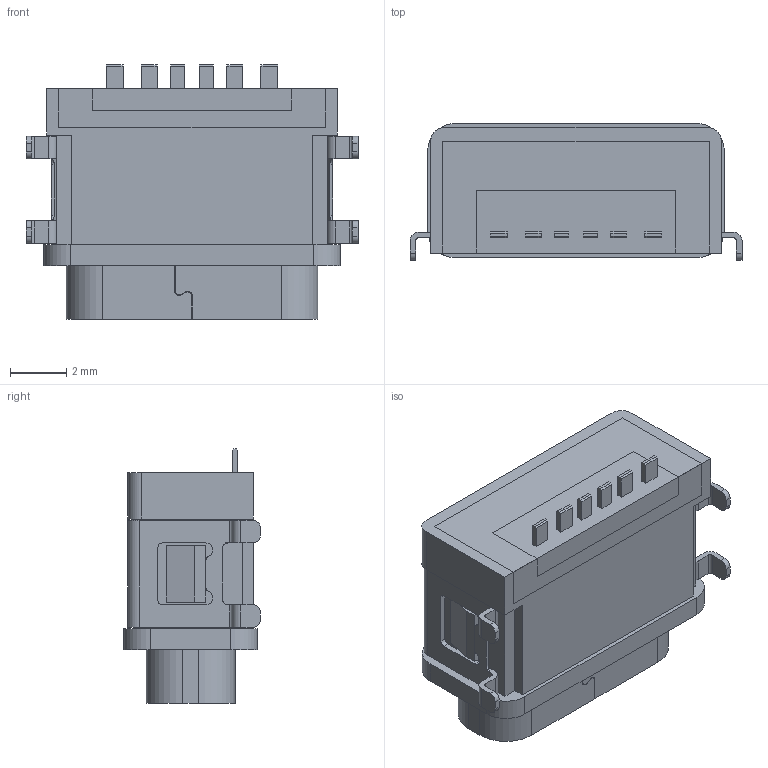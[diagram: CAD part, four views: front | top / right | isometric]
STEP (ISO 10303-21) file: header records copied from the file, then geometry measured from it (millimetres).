
FILE_DESCRIPTION((''),'2;1');
FILE_NAME('1020006','2022-06-20T09:23:08',('Administrator'),(''),'CREO PARAMETRIC BY PTC INC, 2019224','CREO PARAMETRIC BY PTC INC, 2019224','');
FILE_SCHEMA(('CONFIG_CONTROL_DESIGN'));
Length unit declared in the file: millimetre
Products named in the file (1): 1020006
Bounding box: 11.8 x 4.86 x 9.05 mm (x, y, z)
Volume: 167.2 mm3; surface area: 981.5 mm2
Topology: 2 solids, 3 shells, 807 faces, 2259 edges, 1490 vertices
Faces by surface type: plane 639, cylinder 152, cone 16
Entity records: 25777 total; most frequent: CARTESIAN_POINT 4623, ORIENTED_EDGE 4500, DIRECTION 4175, EDGE_CURVE 2259, VECTOR 1927, LINE 1927, VERTEX_POINT 1490, AXIS2_PLACEMENT_3D 1124
